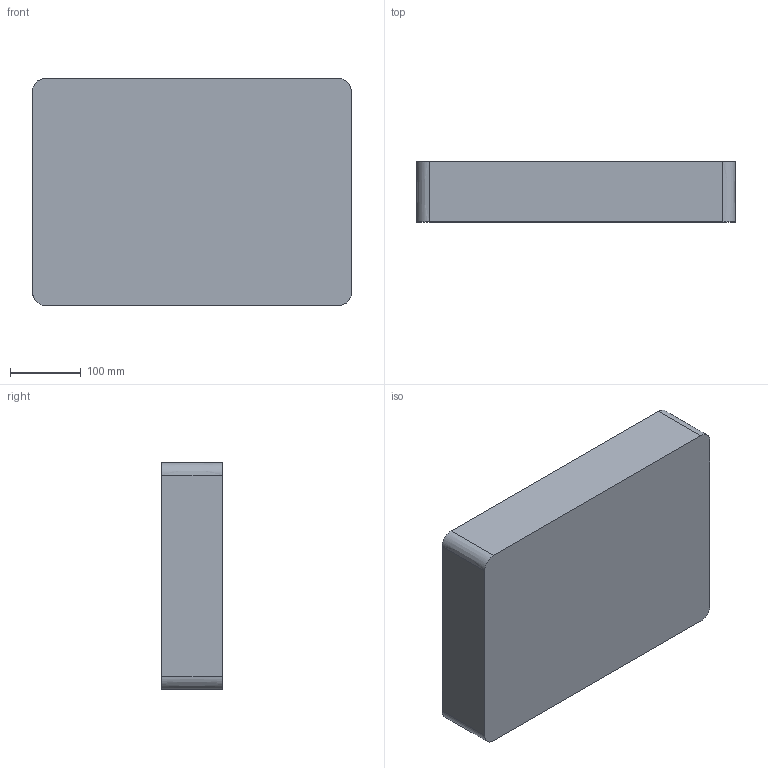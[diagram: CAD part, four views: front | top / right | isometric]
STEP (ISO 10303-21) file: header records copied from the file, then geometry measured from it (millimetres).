
FILE_DESCRIPTION (( 'STEP AP203' ), '1' );
FILE_NAME ('inside drawing bottom 5040.STEP', '2022-06-23T10:25:08', ( '' ), ( '' ), 'SwSTEP 2.0', 'SolidWorks 2022', '' );
FILE_SCHEMA (( 'CONFIG_CONTROL_DESIGN' ));
Length unit declared in the file: millimetre
Products named in the file (1): inside drawing bottom 5040
Bounding box: 451 x 85 x 321.06 mm (x, y, z)
Volume: 1590890.6 mm3; surface area: 530308 mm2
Topology: 1 solids, 1 shells, 199 faces, 594 edges, 373 vertices
Faces by surface type: plane 104, bspline 45, cylinder 22, cone 22, sphere 4, torus 2
Entity records: 11206 total; most frequent: CARTESIAN_POINT 6533, ORIENTED_EDGE 1112, DIRECTION 702, EDGE_CURVE 556, VERTEX_POINT 373, LINE 316, VECTOR 316, EDGE_LOOP 213
